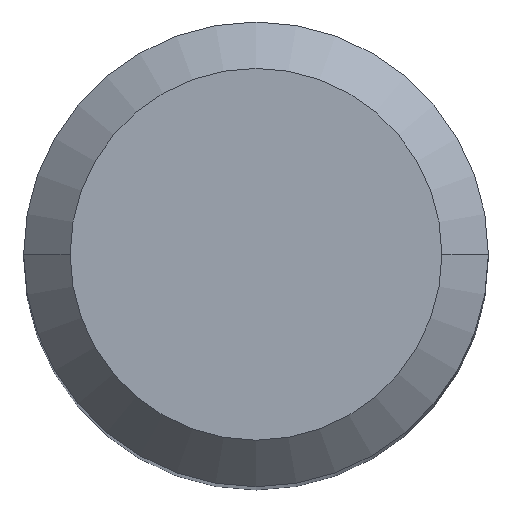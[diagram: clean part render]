
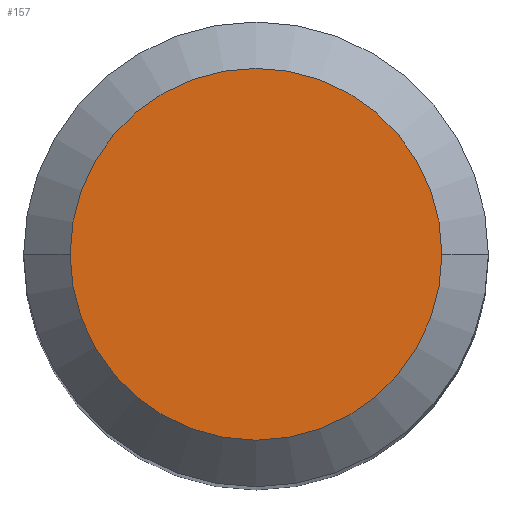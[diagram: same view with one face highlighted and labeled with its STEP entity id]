
A CAD part, top view. The second image highlights one B-rep face of the part: STEP entity #157.
In plain terms, the highlighted planar face has unit normal (0, 0, 1).
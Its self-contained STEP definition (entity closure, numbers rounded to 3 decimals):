
#6 = EDGE_LOOP ( 'NONE', ( #138, #573 ) ) ;
#71 = CARTESIAN_POINT ( 'NONE',  ( 4., 0., 0. ) ) ;
#73 = DIRECTION ( 'NONE',  ( -1., 0., 0. ) ) ;
#115 = DIRECTION ( 'NONE',  ( 0., 0., -1. ) ) ;
#138 = ORIENTED_EDGE ( 'NONE', *, *, #504, .F. ) ;
#142 = FACE_OUTER_BOUND ( 'NONE', #6, .T. ) ;
#157 = ADVANCED_FACE ( 'NONE', ( #142 ), #329, .T. ) ;
#164 = CIRCLE ( 'NONE', #507, 4. ) ;
#223 = DIRECTION ( 'NONE',  ( 0., 0., -1. ) ) ;
#266 = VERTEX_POINT ( 'NONE', #545 ) ;
#276 = VERTEX_POINT ( 'NONE', #71 ) ;
#306 = DIRECTION ( 'NONE',  ( -1., 0., 0. ) ) ;
#316 = EDGE_CURVE ( 'NONE', #276, #266, #164, .T. ) ;
#329 = PLANE ( 'NONE',  #331 ) ;
#331 = AXIS2_PLACEMENT_3D ( 'NONE', #406, #599, #364 ) ;
#364 = DIRECTION ( 'NONE',  ( 1., 0., 0. ) ) ;
#400 = CIRCLE ( 'NONE', #548, 4. ) ;
#406 = CARTESIAN_POINT ( 'NONE',  ( 0., 4., 0. ) ) ;
#501 = CARTESIAN_POINT ( 'NONE',  ( 0., 0., 0. ) ) ;
#504 = EDGE_CURVE ( 'NONE', #266, #276, #400, .T. ) ;
#507 = AXIS2_PLACEMENT_3D ( 'NONE', #542, #115, #306 ) ;
#542 = CARTESIAN_POINT ( 'NONE',  ( 0., 0., 0. ) ) ;
#545 = CARTESIAN_POINT ( 'NONE',  ( -4., 0., 0. ) ) ;
#548 = AXIS2_PLACEMENT_3D ( 'NONE', #501, #223, #73 ) ;
#573 = ORIENTED_EDGE ( 'NONE', *, *, #316, .F. ) ;
#599 = DIRECTION ( 'NONE',  ( 0., 0., 1. ) ) ;
